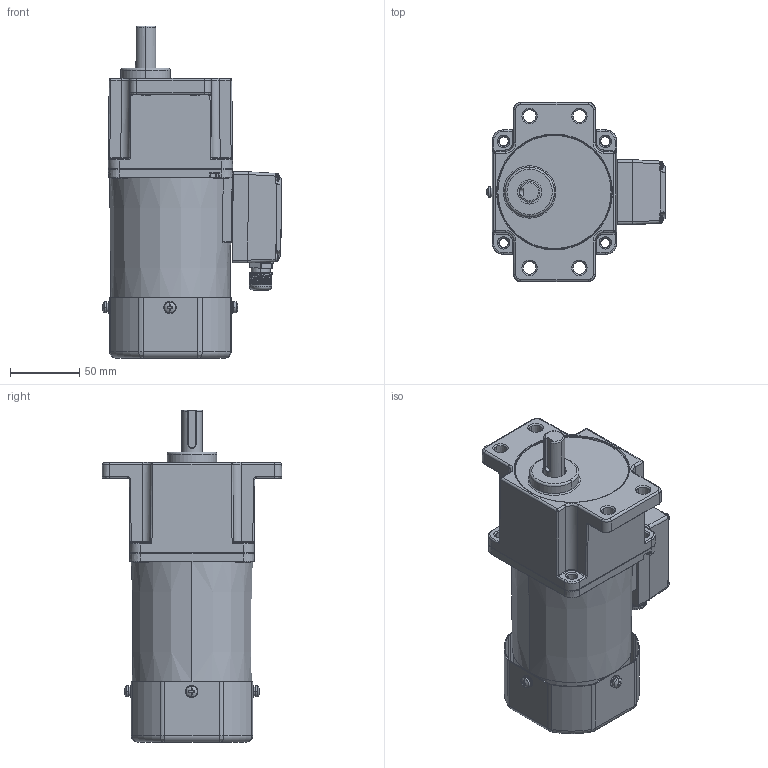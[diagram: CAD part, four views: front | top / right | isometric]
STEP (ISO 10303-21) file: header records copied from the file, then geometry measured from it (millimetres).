
FILE_DESCRIPTION (( 'STEP AP203' ), '1' );
FILE_NAME ('5IK60RGU-CFT(5GU3K-200K).STEP', '2023-08-08T05:52:13', ( 'Windows User' ), ( 'P R C' ), 'SwSTEP 2.0', 'SolidWorks 2019', '' );
FILE_SCHEMA (( 'CONFIG_CONTROL_DESIGN' ));
Length unit declared in the file: millimetre
Products named in the file (20): ^____5IK60RGU-CFT(5GU3K-200K)(2)_5IK60RGU-CFT(5GU3K-200K); 葩璃 (2) ^_70TSJXHG____5IK60RGU-CFT(5GU3K-200K)(2)_5IK60RGU-CFT(5GU3K-200K); 5IK60RGU-CFT(5GU3K-200K)(2)^5IK60RGU-CFT(5GU3K-200K); 5IK60RGU-CFT(5GU3K-200K); ^70TSJXHG____5IK60RGU-CFT(5GU3K-200K)(2)_5IK60RGU-CFT(5GU3K-200K); ^_5GU3K-200K_5IK60RGU-CFT(5GU3K-200K)(2)_5IK60RGU-CFT(5GU3K-200K); 葩璃 (3) ^_____5IK60RGU-CFT(5GU3K-200K)(2)_5IK60RGU-CFT(5GU3K-200K); ^5IK60RGU-CFT(5GU3K-200K)(2)_5IK60RGU-CFT(5GU3K-200K); 70TSJXHG^___5IK60RGU-CFT(5GU3K-200K)(2)_5IK60RGU-CFT(5GU3K-200K); ^__5IK60RGU-CFT(5GU3K-200K)(2)_5IK60RGU-CFT(5GU3K-200K); 葩璃 (2) ^_____5IK60RGU-CFT(5GU3K-200K)(2)_5IK60RGU-CFT(5GU3K-200K); ^_70TSJXHG____5IK60RGU-CFT(5GU3K-200K)(2)_5IK60RGU-CFT(5GU3K-200K); ^_5IK60RGU-CFT(5GU3K-200K)(2)_5IK60RGU-CFT(5GU3K-200K); ^___5IK60RGU-CFT(5GU3K-200K)(2)_5IK60RGU-CFT(5GU3K-200K); 5GU3K-200K^5IK60RGU-CFT(5GU3K-200K)(2)_5IK60RGU-CFT(5GU3K-200K); ^_____5IK60RGU-CFT(5GU3K-200K)(2)_5IK60RGU-CFT(5GU3K-200K); ^5GU3K-200K_5IK60RGU-CFT(5GU3K-200K)(2)_5IK60RGU-CFT(5GU3K-200K); 葩璃 (3) ^_70TSJXHG____5IK60RGU-CFT(5GU3K-200K)(2)_5IK60RGU-CFT(5GU3K-200K)
Assembly tree (22 placements, depth 8):
  5IK60RGU-CFT(5GU3K-200K)
    5IK60RGU-CFT(5GU3K-200K)(2)^5IK60RGU-CFT(5GU3K-200K)
      ^5IK60RGU-CFT(5GU3K-200K)(2)_5IK60RGU-CFT(5GU3K-200K)
        ^_5IK60RGU-CFT(5GU3K-200K)(2)_5IK60RGU-CFT(5GU3K-200K)
          ^__5IK60RGU-CFT(5GU3K-200K)(2)_5IK60RGU-CFT(5GU3K-200K)
            70TSJXHG^___5IK60RGU-CFT(5GU3K-200K)(2)_5IK60RGU-CFT(5GU3K-200K)
              ^70TSJXHG____5IK60RGU-CFT(5GU3K-200K)(2)_5IK60RGU-CFT(5GU3K-200K)
                ^_70TSJXHG____5IK60RGU-CFT(5GU3K-200K)(2)_5IK60RGU-CFT(5GU3K-200K)
                葩璃 (2) ^_70TSJXHG____5IK60RGU-CFT(5GU3K-200K)(2)_5IK60RGU-CFT(5GU3K-200K)
                葩璃 (3) ^_70TSJXHG____5IK60RGU-CFT(5GU3K-200K)(2)_5IK60RGU-CFT(5GU3K-200K)  x4
            ^___5IK60RGU-CFT(5GU3K-200K)(2)_5IK60RGU-CFT(5GU3K-200K)
              ^____5IK60RGU-CFT(5GU3K-200K)(2)_5IK60RGU-CFT(5GU3K-200K)
                ^_____5IK60RGU-CFT(5GU3K-200K)(2)_5IK60RGU-CFT(5GU3K-200K)
                葩璃 (2) ^_____5IK60RGU-CFT(5GU3K-200K)(2)_5IK60RGU-CFT(5GU3K-200K)
                葩璃 (3) ^_____5IK60RGU-CFT(5GU3K-200K)(2)_5IK60RGU-CFT(5GU3K-200K)
            ^___5IK60RGU-CFT(5GU3K-200K)(2)_5IK60RGU-CFT(5GU3K-200K)
          ^__5IK60RGU-CFT(5GU3K-200K)(2)_5IK60RGU-CFT(5GU3K-200K)
      5GU3K-200K^5IK60RGU-CFT(5GU3K-200K)(2)_5IK60RGU-CFT(5GU3K-200K)
        ^5GU3K-200K_5IK60RGU-CFT(5GU3K-200K)(2)_5IK60RGU-CFT(5GU3K-200K)
          ^_5GU3K-200K_5IK60RGU-CFT(5GU3K-200K)(2)_5IK60RGU-CFT(5GU3K-200K)
Bounding box: 129.69 x 129.97 x 240.5 mm (x, y, z)
Volume: 1269640.8 mm3; surface area: 165561 mm2
Topology: 24 solids, 24 shells, 2126 faces, 5383 edges, 3306 vertices
Faces by surface type: cylinder 793, cone 544, plane 446, bspline 131, torus 126, sphere 86
Entity records: 66044 total; most frequent: CARTESIAN_POINT 22599, DIRECTION 8874, ORIENTED_EDGE 8678, EDGE_CURVE 4339, AXIS2_PLACEMENT_3D 3633, VERTEX_POINT 2690, CIRCLE 1990, EDGE_LOOP 1861
